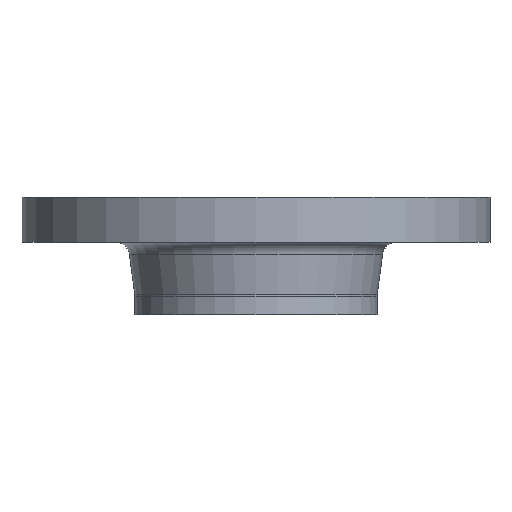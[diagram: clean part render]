
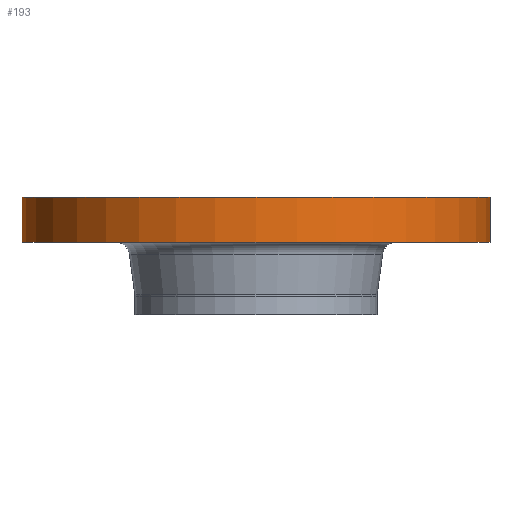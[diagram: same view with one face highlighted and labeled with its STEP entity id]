
A CAD part, front view. The second image highlights one B-rep face of the part: STEP entity #193.
In plain terms, the highlighted cylindrical face has radius 135 mm (diameter 270 mm), a partial arc.
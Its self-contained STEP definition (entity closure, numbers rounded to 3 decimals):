
#1 = DIRECTION ( 'NONE',  ( 0., 0., 1. ) ) ;
#2 = EDGE_LOOP ( 'NONE', ( #159, #956, #367, #793 ) ) ;
#42 = CARTESIAN_POINT ( 'NONE',  ( 0., 0., -26. ) ) ;
#73 = DIRECTION ( 'NONE',  ( 0., 0., 1. ) ) ;
#84 = CIRCLE ( 'NONE', #220, 135. ) ;
#113 = DIRECTION ( 'NONE',  ( 0., 0., 1. ) ) ;
#127 = DIRECTION ( 'NONE',  ( 0., 0., 1. ) ) ;
#146 = VERTEX_POINT ( 'NONE', #577 ) ;
#159 = ORIENTED_EDGE ( 'NONE', *, *, #928, .F. ) ;
#184 = VECTOR ( 'NONE', #73, 1000. ) ;
#188 = FACE_OUTER_BOUND ( 'NONE', #2, .T. ) ;
#193 = ADVANCED_FACE ( 'NONE', ( #188 ), #510, .T. ) ;
#220 = AXIS2_PLACEMENT_3D ( 'NONE', #846, #127, #448 ) ;
#304 = CARTESIAN_POINT ( 'NONE',  ( -135., 0., -26. ) ) ;
#364 = DIRECTION ( 'NONE',  ( 0., 0., -1. ) ) ;
#367 = ORIENTED_EDGE ( 'NONE', *, *, #851, .T. ) ;
#402 = LINE ( 'NONE', #724, #647 ) ;
#403 = CIRCLE ( 'NONE', #997, 135. ) ;
#432 = DIRECTION ( 'NONE',  ( 1., 0., 0. ) ) ;
#445 = EDGE_CURVE ( 'NONE', #484, #465, #403, .T. ) ;
#448 = DIRECTION ( 'NONE',  ( 1., 0., 0. ) ) ;
#455 = EDGE_CURVE ( 'NONE', #658, #146, #84, .T. ) ;
#465 = VERTEX_POINT ( 'NONE', #304 ) ;
#468 = CARTESIAN_POINT ( 'NONE',  ( 135., 0., -26. ) ) ;
#484 = VERTEX_POINT ( 'NONE', #468 ) ;
#510 = CYLINDRICAL_SURFACE ( 'NONE', #731, 135. ) ;
#577 = CARTESIAN_POINT ( 'NONE',  ( 135., 0., 0. ) ) ;
#647 = VECTOR ( 'NONE', #1, 1000. ) ;
#658 = VERTEX_POINT ( 'NONE', #737 ) ;
#677 = DIRECTION ( 'NONE',  ( -1., 0., 0. ) ) ;
#724 = CARTESIAN_POINT ( 'NONE',  ( 135., 0., -78. ) ) ;
#731 = AXIS2_PLACEMENT_3D ( 'NONE', #832, #113, #432 ) ;
#737 = CARTESIAN_POINT ( 'NONE',  ( -135., 0., 0. ) ) ;
#793 = ORIENTED_EDGE ( 'NONE', *, *, #455, .F. ) ;
#795 = CARTESIAN_POINT ( 'NONE',  ( -135., 0., -78. ) ) ;
#832 = CARTESIAN_POINT ( 'NONE',  ( 0., 0., -78. ) ) ;
#846 = CARTESIAN_POINT ( 'NONE',  ( 0., 0., 0. ) ) ;
#851 = EDGE_CURVE ( 'NONE', #484, #146, #402, .T. ) ;
#928 = EDGE_CURVE ( 'NONE', #465, #658, #988, .T. ) ;
#956 = ORIENTED_EDGE ( 'NONE', *, *, #445, .F. ) ;
#988 = LINE ( 'NONE', #795, #184 ) ;
#997 = AXIS2_PLACEMENT_3D ( 'NONE', #42, #364, #677 ) ;
